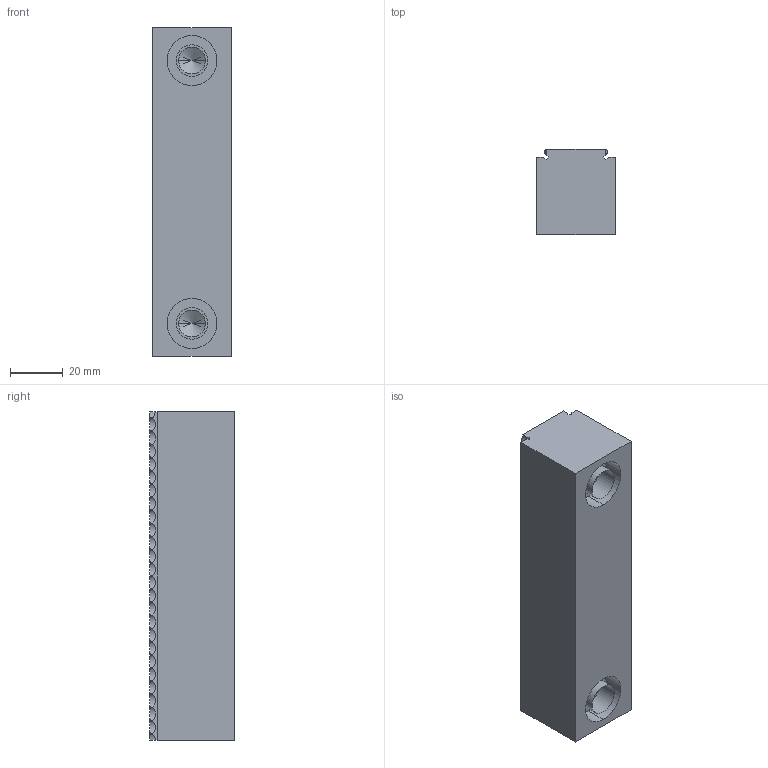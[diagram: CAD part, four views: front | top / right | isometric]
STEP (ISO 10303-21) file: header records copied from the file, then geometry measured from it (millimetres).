
FILE_DESCRIPTION((''),'2;1');
FILE_NAME('FG_VC_ACCES_SC013NP001','2026-03-05T17:32:11',('Admin'),(''),'CREO PARAMETRIC BY PTC INC, 2025010','CREO PARAMETRIC BY PTC INC, 2025010','');
FILE_SCHEMA(('CONFIG_CONTROL_DESIGN'));
Length unit declared in the file: millimetre
Products named in the file (1): FG_VC_ACCES_SC013NP001
Bounding box: 30 x 32.3 x 125 mm (x, y, z)
Volume: 110043.2 mm3; surface area: 23420.5 mm2
Topology: 1 solids, 5 shells, 190 faces, 552 edges, 366 vertices
Faces by surface type: plane 118, cylinder 68, cone 4
Entity records: 6527 total; most frequent: CARTESIAN_POINT 1705, ORIENTED_EDGE 1080, DIRECTION 866, EDGE_CURVE 548, VERTEX_POINT 366, VECTOR 308, LINE 308, AXIS2_PLACEMENT_3D 279
